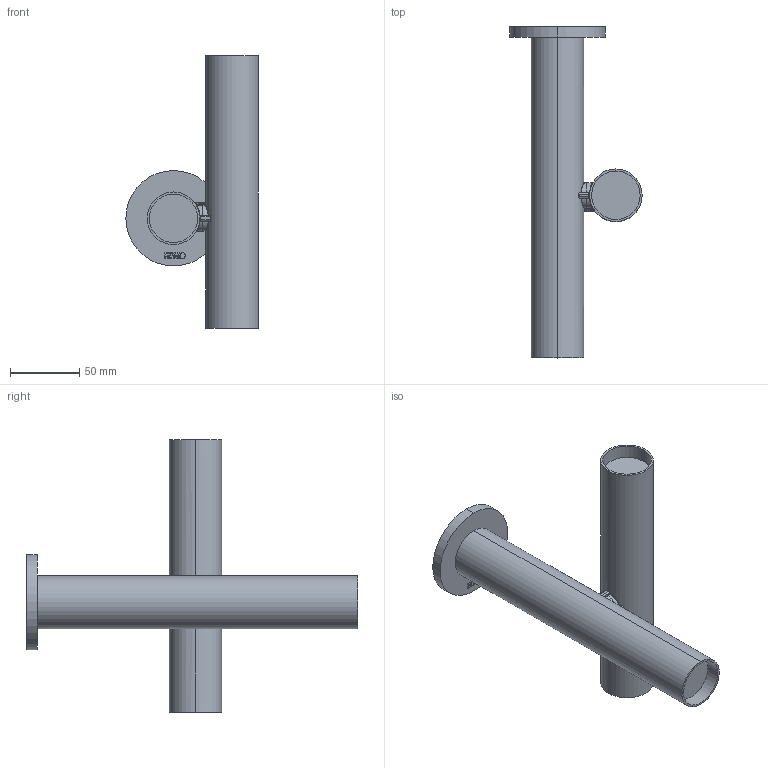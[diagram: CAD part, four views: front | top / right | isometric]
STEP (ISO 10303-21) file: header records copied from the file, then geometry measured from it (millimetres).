
FILE_DESCRIPTION (( 'STEP AP203' ), '1' );
FILE_NAME ('defeature.STEP', '2021-10-14T13:48:53', ( '' ), ( '' ), 'SwSTEP 2.0', 'SolidWorks 2016', '' );
FILE_SCHEMA (( 'CONFIG_CONTROL_DESIGN' ));
Length unit declared in the file: millimetre
Products named in the file (1): defeature
Bounding box: 95.7 x 240 x 197 mm (x, y, z)
Volume: 490356.9 mm3; surface area: 72498 mm2
Topology: 2 solids, 2 shells, 371 faces, 958 edges, 603 vertices
Faces by surface type: plane 171, cylinder 103, bspline 48, torus 22, sphere 18, cone 9
Entity records: 14978 total; most frequent: CARTESIAN_POINT 6254, ORIENTED_EDGE 1884, DIRECTION 1663, EDGE_CURVE 942, VERTEX_POINT 599, AXIS2_PLACEMENT_3D 582, LINE 499, VECTOR 499
